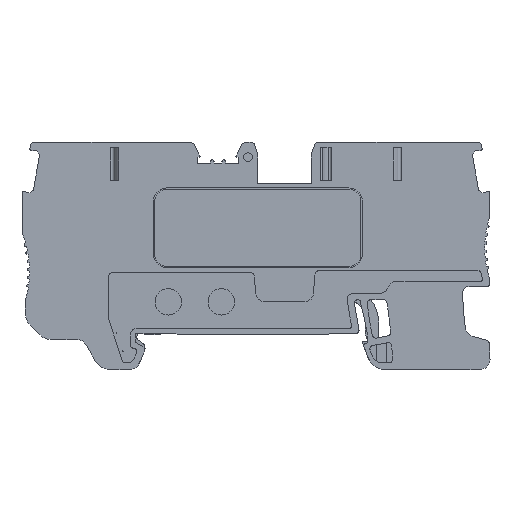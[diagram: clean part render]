
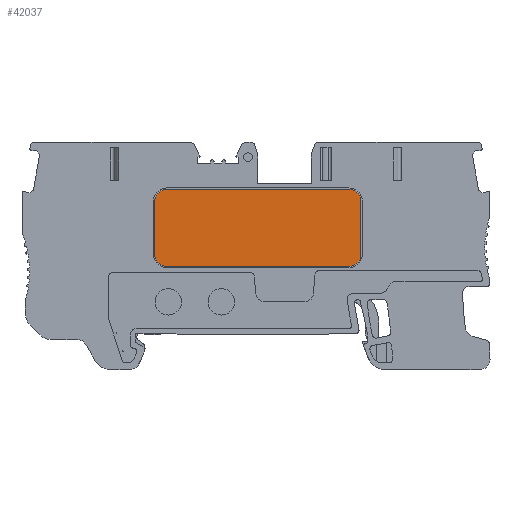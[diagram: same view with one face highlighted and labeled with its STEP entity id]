
A CAD part, left-side view. The second image highlights one B-rep face of the part: STEP entity #42037.
In plain terms, the highlighted planar face has unit normal (-1, 0, 0).
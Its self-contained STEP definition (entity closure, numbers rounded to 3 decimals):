
#42037 = ADVANCED_FACE('',(#42038),#42053,.F.);
#42038 = FACE_BOUND('',#42039,.T.);
#42039 = EDGE_LOOP('',(#42040,#42068,#42084,#42105,#42121,#42142,#42158,
    #42179));
#42040 = ORIENTED_EDGE('',*,*,#42041,.T.);
#42041 = EDGE_CURVE('',#42042,#42044,#42046,.T.);
#42042 = VERTEX_POINT('',#42043);
#42043 = CARTESIAN_POINT('',(-10.457,12.796,
    17.45));
#42044 = VERTEX_POINT('',#42045);
#42045 = CARTESIAN_POINT('',(-10.457,14.596,15.65)
  );
#42046 = SURFACE_CURVE('',#42047,(#42052),.PCURVE_S1.);
#42047 = CIRCLE('',#42048,1.8);
#42048 = AXIS2_PLACEMENT_3D('',#42049,#42050,#42051);
#42049 = CARTESIAN_POINT('',(-10.457,12.796,15.65)
  );
#42050 = DIRECTION('',(-1.,0.,0.));
#42051 = DIRECTION('',(0.,1.,0.));
#42052 = PCURVE('',#42053,#42058);
#42053 = PLANE('',#42054);
#42054 = AXIS2_PLACEMENT_3D('',#42055,#42056,#42057);
#42055 = CARTESIAN_POINT('',(-10.457,0.,
    0.));
#42056 = DIRECTION('',(1.,0.,0.));
#42057 = DIRECTION('',(0.,1.,0.));
#42058 = DEFINITIONAL_REPRESENTATION('',(#42059),#42067);
#42059 = ( BOUNDED_CURVE() B_SPLINE_CURVE(2,(#42060,#42061,#42062,#42063
    ,#42064,#42065,#42066),.UNSPECIFIED.,.T.,.F.) 
B_SPLINE_CURVE_WITH_KNOTS((1,2,2,2,2,1),(-2.094,0.,
    2.094,4.189,6.283,8.378),
.UNSPECIFIED.) CURVE() GEOMETRIC_REPRESENTATION_ITEM() 
RATIONAL_B_SPLINE_CURVE((1.,0.5,1.,0.5,1.,0.5,1.)) REPRESENTATION_ITEM(
  '') );
#42060 = CARTESIAN_POINT('',(14.596,15.65));
#42061 = CARTESIAN_POINT('',(14.596,12.532));
#42062 = CARTESIAN_POINT('',(11.896,14.091));
#42063 = CARTESIAN_POINT('',(9.196,15.65));
#42064 = CARTESIAN_POINT('',(11.896,17.209));
#42065 = CARTESIAN_POINT('',(14.596,18.768));
#42066 = CARTESIAN_POINT('',(14.596,15.65));
#42067 = ( GEOMETRIC_REPRESENTATION_CONTEXT(2) 
PARAMETRIC_REPRESENTATION_CONTEXT() REPRESENTATION_CONTEXT('2D SPACE',''
  ) );
#42068 = ORIENTED_EDGE('',*,*,#42069,.T.);
#42069 = EDGE_CURVE('',#42044,#42070,#42072,.T.);
#42070 = VERTEX_POINT('',#42071);
#42071 = CARTESIAN_POINT('',(-10.457,14.596,7.65)
  );
#42072 = SURFACE_CURVE('',#42073,(#42077),.PCURVE_S1.);
#42073 = LINE('',#42074,#42075);
#42074 = CARTESIAN_POINT('',(-10.457,14.596,
    0.));
#42075 = VECTOR('',#42076,1.);
#42076 = DIRECTION('',(0.,0.,-1.));
#42077 = PCURVE('',#42053,#42078);
#42078 = DEFINITIONAL_REPRESENTATION('',(#42079),#42083);
#42079 = LINE('',#42080,#42081);
#42080 = CARTESIAN_POINT('',(14.596,0.));
#42081 = VECTOR('',#42082,1.);
#42082 = DIRECTION('',(0.,-1.));
#42083 = ( GEOMETRIC_REPRESENTATION_CONTEXT(2) 
PARAMETRIC_REPRESENTATION_CONTEXT() REPRESENTATION_CONTEXT('2D SPACE',''
  ) );
#42084 = ORIENTED_EDGE('',*,*,#42085,.T.);
#42085 = EDGE_CURVE('',#42070,#42086,#42088,.T.);
#42086 = VERTEX_POINT('',#42087);
#42087 = CARTESIAN_POINT('',(-10.457,12.796,
    5.85));
#42088 = SURFACE_CURVE('',#42089,(#42094),.PCURVE_S1.);
#42089 = CIRCLE('',#42090,1.8);
#42090 = AXIS2_PLACEMENT_3D('',#42091,#42092,#42093);
#42091 = CARTESIAN_POINT('',(-10.457,12.796,7.65)
  );
#42092 = DIRECTION('',(-1.,0.,0.));
#42093 = DIRECTION('',(0.,1.,0.));
#42094 = PCURVE('',#42053,#42095);
#42095 = DEFINITIONAL_REPRESENTATION('',(#42096),#42104);
#42096 = ( BOUNDED_CURVE() B_SPLINE_CURVE(2,(#42097,#42098,#42099,#42100
    ,#42101,#42102,#42103),.UNSPECIFIED.,.F.,.F.) 
B_SPLINE_CURVE_WITH_KNOTS((1,2,2,2,2,1),(-2.094,0.,
    2.094,4.189,6.283,8.378),
.UNSPECIFIED.) CURVE() GEOMETRIC_REPRESENTATION_ITEM() 
RATIONAL_B_SPLINE_CURVE((1.,0.5,1.,0.5,1.,0.5,1.)) REPRESENTATION_ITEM(
  '') );
#42097 = CARTESIAN_POINT('',(14.596,7.65));
#42098 = CARTESIAN_POINT('',(14.596,4.532));
#42099 = CARTESIAN_POINT('',(11.896,6.091));
#42100 = CARTESIAN_POINT('',(9.196,7.65));
#42101 = CARTESIAN_POINT('',(11.896,9.209));
#42102 = CARTESIAN_POINT('',(14.596,10.768));
#42103 = CARTESIAN_POINT('',(14.596,7.65));
#42104 = ( GEOMETRIC_REPRESENTATION_CONTEXT(2) 
PARAMETRIC_REPRESENTATION_CONTEXT() REPRESENTATION_CONTEXT('2D SPACE',''
  ) );
#42105 = ORIENTED_EDGE('',*,*,#42106,.T.);
#42106 = EDGE_CURVE('',#42086,#42107,#42109,.T.);
#42107 = VERTEX_POINT('',#42108);
#42108 = CARTESIAN_POINT('',(-10.457,-14.654,
    5.85));
#42109 = SURFACE_CURVE('',#42110,(#42114),.PCURVE_S1.);
#42110 = LINE('',#42111,#42112);
#42111 = CARTESIAN_POINT('',(-10.457,0.,
    5.85));
#42112 = VECTOR('',#42113,1.);
#42113 = DIRECTION('',(0.,-1.,0.));
#42114 = PCURVE('',#42053,#42115);
#42115 = DEFINITIONAL_REPRESENTATION('',(#42116),#42120);
#42116 = LINE('',#42117,#42118);
#42117 = CARTESIAN_POINT('',(0.,5.85));
#42118 = VECTOR('',#42119,1.);
#42119 = DIRECTION('',(-1.,0.));
#42120 = ( GEOMETRIC_REPRESENTATION_CONTEXT(2) 
PARAMETRIC_REPRESENTATION_CONTEXT() REPRESENTATION_CONTEXT('2D SPACE',''
  ) );
#42121 = ORIENTED_EDGE('',*,*,#42122,.T.);
#42122 = EDGE_CURVE('',#42107,#42123,#42125,.T.);
#42123 = VERTEX_POINT('',#42124);
#42124 = CARTESIAN_POINT('',(-10.457,-16.454,7.65
    ));
#42125 = SURFACE_CURVE('',#42126,(#42131),.PCURVE_S1.);
#42126 = CIRCLE('',#42127,1.8);
#42127 = AXIS2_PLACEMENT_3D('',#42128,#42129,#42130);
#42128 = CARTESIAN_POINT('',(-10.457,-14.654,7.65
    ));
#42129 = DIRECTION('',(-1.,0.,0.));
#42130 = DIRECTION('',(0.,1.,0.));
#42131 = PCURVE('',#42053,#42132);
#42132 = DEFINITIONAL_REPRESENTATION('',(#42133),#42141);
#42133 = ( BOUNDED_CURVE() B_SPLINE_CURVE(2,(#42134,#42135,#42136,#42137
    ,#42138,#42139,#42140),.UNSPECIFIED.,.F.,.F.) 
B_SPLINE_CURVE_WITH_KNOTS((1,2,2,2,2,1),(-2.094,0.,
    2.094,4.189,6.283,8.378),
.UNSPECIFIED.) CURVE() GEOMETRIC_REPRESENTATION_ITEM() 
RATIONAL_B_SPLINE_CURVE((1.,0.5,1.,0.5,1.,0.5,1.)) REPRESENTATION_ITEM(
  '') );
#42134 = CARTESIAN_POINT('',(-12.854,7.65));
#42135 = CARTESIAN_POINT('',(-12.854,4.532));
#42136 = CARTESIAN_POINT('',(-15.554,6.091));
#42137 = CARTESIAN_POINT('',(-18.254,7.65));
#42138 = CARTESIAN_POINT('',(-15.554,9.209));
#42139 = CARTESIAN_POINT('',(-12.854,10.768));
#42140 = CARTESIAN_POINT('',(-12.854,7.65));
#42141 = ( GEOMETRIC_REPRESENTATION_CONTEXT(2) 
PARAMETRIC_REPRESENTATION_CONTEXT() REPRESENTATION_CONTEXT('2D SPACE',''
  ) );
#42142 = ORIENTED_EDGE('',*,*,#42143,.T.);
#42143 = EDGE_CURVE('',#42123,#42144,#42146,.T.);
#42144 = VERTEX_POINT('',#42145);
#42145 = CARTESIAN_POINT('',(-10.457,-16.454,15.65
    ));
#42146 = SURFACE_CURVE('',#42147,(#42151),.PCURVE_S1.);
#42147 = LINE('',#42148,#42149);
#42148 = CARTESIAN_POINT('',(-10.457,-16.454,
    0.));
#42149 = VECTOR('',#42150,1.);
#42150 = DIRECTION('',(0.,0.,1.));
#42151 = PCURVE('',#42053,#42152);
#42152 = DEFINITIONAL_REPRESENTATION('',(#42153),#42157);
#42153 = LINE('',#42154,#42155);
#42154 = CARTESIAN_POINT('',(-16.454,0.));
#42155 = VECTOR('',#42156,1.);
#42156 = DIRECTION('',(0.,1.));
#42157 = ( GEOMETRIC_REPRESENTATION_CONTEXT(2) 
PARAMETRIC_REPRESENTATION_CONTEXT() REPRESENTATION_CONTEXT('2D SPACE',''
  ) );
#42158 = ORIENTED_EDGE('',*,*,#42159,.T.);
#42159 = EDGE_CURVE('',#42144,#42160,#42162,.T.);
#42160 = VERTEX_POINT('',#42161);
#42161 = CARTESIAN_POINT('',(-10.457,-14.654,
    17.45));
#42162 = SURFACE_CURVE('',#42163,(#42168),.PCURVE_S1.);
#42163 = CIRCLE('',#42164,1.8);
#42164 = AXIS2_PLACEMENT_3D('',#42165,#42166,#42167);
#42165 = CARTESIAN_POINT('',(-10.457,-14.654,15.65
    ));
#42166 = DIRECTION('',(-1.,0.,0.));
#42167 = DIRECTION('',(0.,1.,0.));
#42168 = PCURVE('',#42053,#42169);
#42169 = DEFINITIONAL_REPRESENTATION('',(#42170),#42178);
#42170 = ( BOUNDED_CURVE() B_SPLINE_CURVE(2,(#42171,#42172,#42173,#42174
    ,#42175,#42176,#42177),.UNSPECIFIED.,.F.,.F.) 
B_SPLINE_CURVE_WITH_KNOTS((1,2,2,2,2,1),(-2.094,0.,
    2.094,4.189,6.283,8.378),
.UNSPECIFIED.) CURVE() GEOMETRIC_REPRESENTATION_ITEM() 
RATIONAL_B_SPLINE_CURVE((1.,0.5,1.,0.5,1.,0.5,1.)) REPRESENTATION_ITEM(
  '') );
#42171 = CARTESIAN_POINT('',(-12.854,15.65));
#42172 = CARTESIAN_POINT('',(-12.854,12.532));
#42173 = CARTESIAN_POINT('',(-15.554,14.091));
#42174 = CARTESIAN_POINT('',(-18.254,15.65));
#42175 = CARTESIAN_POINT('',(-15.554,17.209));
#42176 = CARTESIAN_POINT('',(-12.854,18.768));
#42177 = CARTESIAN_POINT('',(-12.854,15.65));
#42178 = ( GEOMETRIC_REPRESENTATION_CONTEXT(2) 
PARAMETRIC_REPRESENTATION_CONTEXT() REPRESENTATION_CONTEXT('2D SPACE',''
  ) );
#42179 = ORIENTED_EDGE('',*,*,#42180,.T.);
#42180 = EDGE_CURVE('',#42160,#42042,#42181,.T.);
#42181 = SURFACE_CURVE('',#42182,(#42186),.PCURVE_S1.);
#42182 = LINE('',#42183,#42184);
#42183 = CARTESIAN_POINT('',(-10.457,0.,
    17.45));
#42184 = VECTOR('',#42185,1.);
#42185 = DIRECTION('',(0.,1.,0.));
#42186 = PCURVE('',#42053,#42187);
#42187 = DEFINITIONAL_REPRESENTATION('',(#42188),#42192);
#42188 = LINE('',#42189,#42190);
#42189 = CARTESIAN_POINT('',(0.,17.45));
#42190 = VECTOR('',#42191,1.);
#42191 = DIRECTION('',(1.,0.));
#42192 = ( GEOMETRIC_REPRESENTATION_CONTEXT(2) 
PARAMETRIC_REPRESENTATION_CONTEXT() REPRESENTATION_CONTEXT('2D SPACE',''
  ) );
